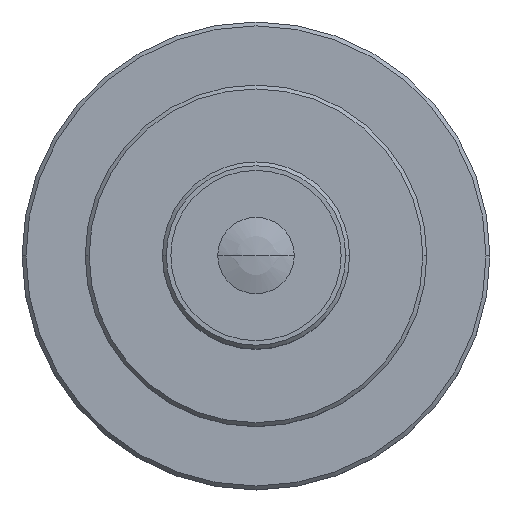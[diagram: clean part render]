
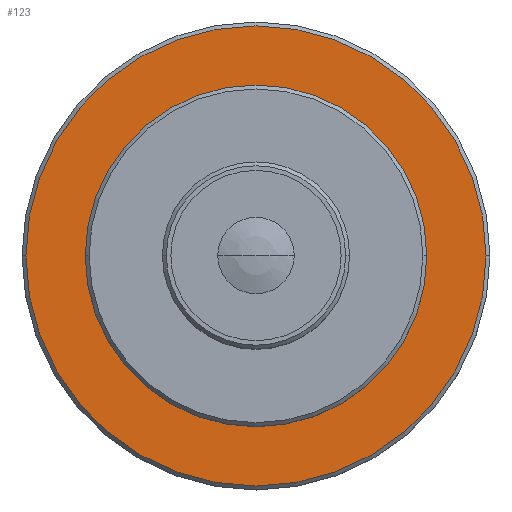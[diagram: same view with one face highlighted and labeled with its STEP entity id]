
A CAD part, top view. The second image highlights one B-rep face of the part: STEP entity #123.
In plain terms, the highlighted planar face has unit normal (0, 0, 1).
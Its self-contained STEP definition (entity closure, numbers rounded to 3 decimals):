
#72=FACE_BOUND('',#213,.F.);
#80=PLANE('',#729);
#123=ADVANCED_FACE('',(#72,#167),#80,.T.);
#167=FACE_OUTER_BOUND('',#214,.F.);
#213=EDGE_LOOP('',(#310,#311));
#214=EDGE_LOOP('',(#312,#313));
#310=ORIENTED_EDGE('',*,*,#525,.T.);
#311=ORIENTED_EDGE('',*,*,#508,.T.);
#312=ORIENTED_EDGE('',*,*,#526,.F.);
#313=ORIENTED_EDGE('',*,*,#509,.F.);
#508=EDGE_CURVE('',#637,#636,#590,.T.);
#509=EDGE_CURVE('',#635,#634,#591,.T.);
#525=EDGE_CURVE('',#636,#637,#597,.T.);
#526=EDGE_CURVE('',#634,#635,#598,.T.);
#590=CIRCLE('',#698,10.95);
#591=CIRCLE('',#699,14.75);
#597=CIRCLE('',#705,10.95);
#598=CIRCLE('',#706,14.75);
#634=VERTEX_POINT('',#1023);
#635=VERTEX_POINT('',#1024);
#636=VERTEX_POINT('',#1025);
#637=VERTEX_POINT('',#1026);
#698=AXIS2_PLACEMENT_3D('',#1067,#822,#823);
#699=AXIS2_PLACEMENT_3D('',#1068,#824,#825);
#705=AXIS2_PLACEMENT_3D('',#1084,#846,#847);
#706=AXIS2_PLACEMENT_3D('',#1085,#848,#849);
#729=AXIS2_PLACEMENT_3D('',#1110,#896,#897);
#822=DIRECTION('',(0.,0.,1.));
#823=DIRECTION('',(-1.,0.,0.));
#824=DIRECTION('',(0.,0.,1.));
#825=DIRECTION('',(-1.,0.,0.));
#846=DIRECTION('',(0.,0.,1.));
#847=DIRECTION('',(1.,0.,0.));
#848=DIRECTION('',(0.,0.,1.));
#849=DIRECTION('',(1.,0.,0.));
#896=DIRECTION('',(0.,0.,1.));
#897=DIRECTION('',(0.,-1.,0.));
#1023=CARTESIAN_POINT('',(164.75,0.,-141.631));
#1024=CARTESIAN_POINT('',(135.25,0.,-141.631));
#1025=CARTESIAN_POINT('',(160.95,0.,-141.631));
#1026=CARTESIAN_POINT('',(139.05,0.,-141.631));
#1067=CARTESIAN_POINT('',(150.,0.,-141.631));
#1068=CARTESIAN_POINT('',(150.,0.,-141.631));
#1084=CARTESIAN_POINT('',(150.,0.,-141.631));
#1085=CARTESIAN_POINT('',(150.,0.,-141.631));
#1110=CARTESIAN_POINT('',(134.955,15.045,-141.631));
